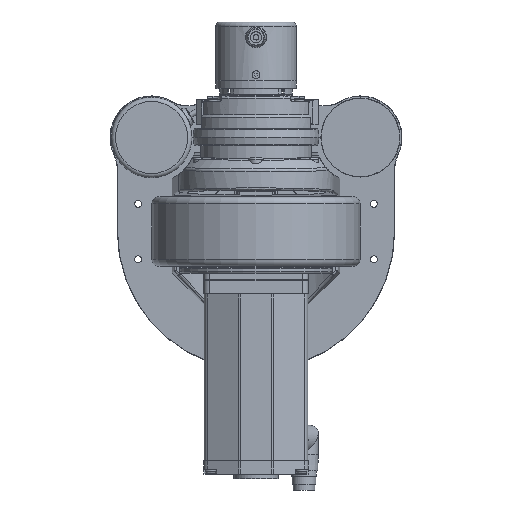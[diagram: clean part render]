
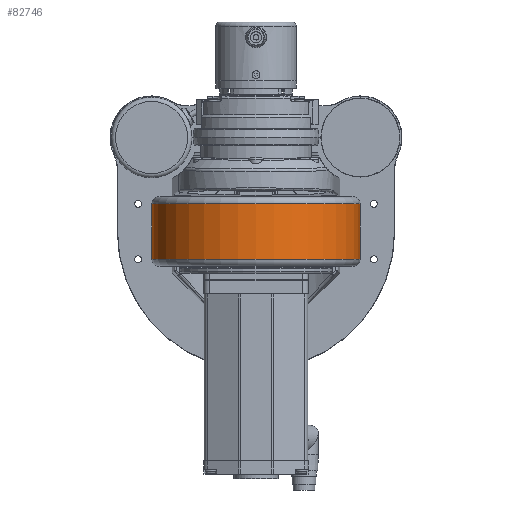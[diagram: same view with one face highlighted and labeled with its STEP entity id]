
A CAD part, front view. The second image highlights one B-rep face of the part: STEP entity #82746.
In plain terms, the highlighted cylindrical face has radius 75 mm (diameter 150 mm), a full revolution.
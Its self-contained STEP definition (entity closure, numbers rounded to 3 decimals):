
#8492 = DIRECTION ( 'NONE',  ( 1., 0., 0. ) ) ;
#12193 = CIRCLE ( 'NONE', #26633, 75. ) ;
#17214 = EDGE_CURVE ( 'NONE', #44896, #44896, #77313, .T. ) ;
#18891 = CARTESIAN_POINT ( 'NONE',  ( -123.529, 31.583, 255.703 ) ) ;
#26633 = AXIS2_PLACEMENT_3D ( 'NONE', #47702, #63752, #64089 ) ;
#27716 = VERTEX_POINT ( 'NONE', #97814 ) ;
#29793 = EDGE_LOOP ( 'NONE', ( #98881 ) ) ;
#32330 = CARTESIAN_POINT ( 'NONE',  ( -48.529, 31.583, 255.703 ) ) ;
#44896 = VERTEX_POINT ( 'NONE', #18891 ) ;
#47702 = CARTESIAN_POINT ( 'NONE',  ( -48.529, 31.583, 215.703 ) ) ;
#57041 = EDGE_LOOP ( 'NONE', ( #59258 ) ) ;
#59258 = ORIENTED_EDGE ( 'NONE', *, *, #17214, .T. ) ;
#59832 = CYLINDRICAL_SURFACE ( 'NONE', #84810, 75. ) ;
#63752 = DIRECTION ( 'NONE',  ( 0., 0., 1. ) ) ;
#64089 = DIRECTION ( 'NONE',  ( -1., 0., 0. ) ) ;
#64950 = DIRECTION ( 'NONE',  ( 0., 0., -1. ) ) ;
#66264 = DIRECTION ( 'NONE',  ( 0., 0., 1. ) ) ;
#77313 = CIRCLE ( 'NONE', #99022, 75. ) ;
#77691 = FACE_OUTER_BOUND ( 'NONE', #29793, .T. ) ;
#79280 = EDGE_CURVE ( 'NONE', #27716, #27716, #12193, .T. ) ;
#82060 = CARTESIAN_POINT ( 'NONE',  ( -48.529, 31.583, 210.703 ) ) ;
#82746 = ADVANCED_FACE ( 'NONE', ( #84192, #77691 ), #59832, .T. ) ;
#84192 = FACE_OUTER_BOUND ( 'NONE', #57041, .T. ) ;
#84810 = AXIS2_PLACEMENT_3D ( 'NONE', #82060, #66264, #8492 ) ;
#97814 = CARTESIAN_POINT ( 'NONE',  ( -123.529, 31.583, 215.703 ) ) ;
#98881 = ORIENTED_EDGE ( 'NONE', *, *, #79280, .T. ) ;
#99022 = AXIS2_PLACEMENT_3D ( 'NONE', #32330, #64950, #106696 ) ;
#106696 = DIRECTION ( 'NONE',  ( -1., 0., 0. ) ) ;
